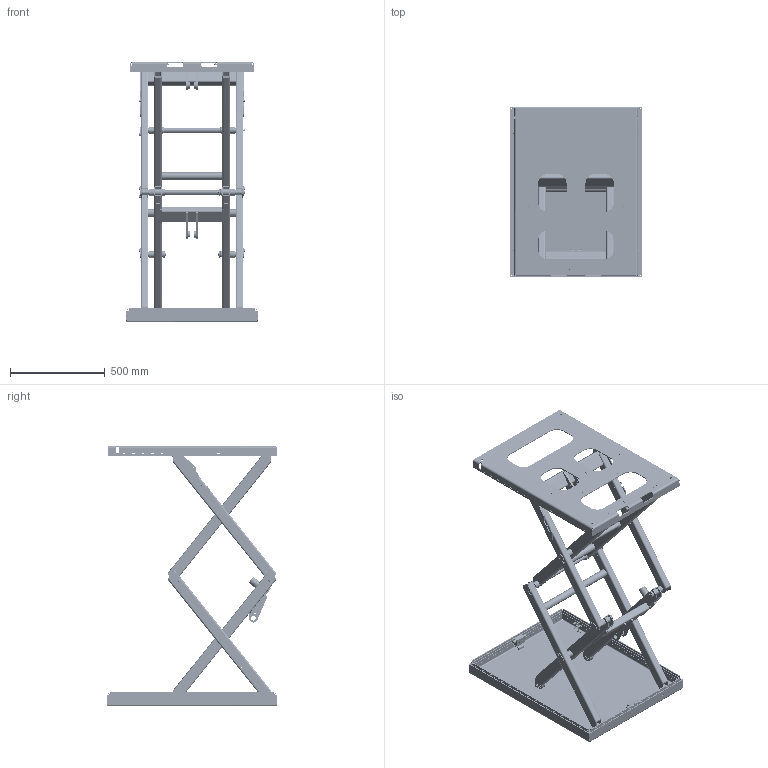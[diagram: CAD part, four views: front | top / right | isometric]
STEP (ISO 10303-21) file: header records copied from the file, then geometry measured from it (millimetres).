
FILE_DESCRIPTION(/* description */ ('Utbredning'),/* implementation_level */ '2;1');
FILE_NAME(/* name */ 'C:\Autodesk_VaultWork\Ritningar\Exporterade modeller\TRD 500 - (600330)\600330_Topp.stp',/* time_stamp */ '2015-07-03T12:23:46+02:00',/* author */ ('joaed'),/* organization */ (''),/* preprocessor_version */ 'ST-DEVELOPER v15.6',/* originating_system */ 'Autodesk Inventor 2015',/* authorisation */ '');
FILE_SCHEMA (('AUTOMOTIVE_DESIGN { 1 0 10303 214 3 1 1 }'));
Products named in the file (65): 600318; 45258; 44681; 600319; 600320; 44268; 86107-320; 600322; 600326; 45051-460; 600327; 600324; 600328; Copy of ISO 4019 - 80x40x4 - 320; 600323; 600348; 86107-45; 600325; 86107-460; 600329; 601711; 601706-545; 603456; 600336; ISO 4014 - M8 x 50BS EN; 42394; 600335; 43056-670; 43056-870; 42330; 43481; ISO 4032 - M8ISO; 33991; 44283; 44280; 44279; 44282; ISO 7089 - 5 - 140 HV(1); 84253; 44281-1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
Assembly tree (177 placements, depth 5):
  600330
    600319
      600318
      45258  x2
      44681  x2
    600322
      600320  x2
      44268  x4
      86107-320
    600328
      600326  x2
      45051-460
      600327  x2
      600324  x2
    600325
      600320  x2
      44268  x4
      Copy of ISO 4019 - 80x40x4 - 320
      600323  x2
      600324  x2
      600348  x2
      86107-45  x2
    600329
      600326  x2
      86107-460
    603456  x2
      601711
      601706-545
    600335
      600336
      45258  x2
      ISO 4014 - M8 x 50BS EN  x4
      42394  x2
    35731-900x700
      43056-670  x2
      43056-870  x2
      42330  x4
      43481  x4
      ISO 4032 - M8ISO  x4
      33990  x2
        33991
        44283
        44280
        44279
        44282
        ISO 7089 - 5 - 140 HV(1)
        84253
        44281
          44281-1
          ISO 2009 - M4 x 12ISO 7,9
        ISO 4032 - M4ISO
        83928
        44277
        44278
        33992
        ISO 7380 - M4 x 10
    601705H-125  x4
      601711
      601706-125
    85243  x6
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Bounding box: 700 x 900 x 1378 mm (x, y, z)
Volume: 14767960.8 mm3; surface area: 6835739.5 mm2
Topology: 191 solids, 191 shells, 6040 faces, 15884 edges, 10409 vertices
Faces by surface type: plane 3069, cylinder 2023, bspline 518, cone 342, torus 88
Full cylindrical faces by diameter (mm): 0.474 x2, 1 x4, 3 x4, 3.141 x4, 3.2 x4, 3.242 x4, 4 x14, 4.3 x4, 4.9 x2, 5 x4, 5.2 x6, 5.3 x4, 6.647 x4, 6.8 x9, 7.4 x34, 7.6 x4, 8 x27, 8.376 x8, 8.5 x4, 9 x6, 10 x14, 10.5 x4, 11 x28, 11.5 x6, 11.63 x18, 12 x4, 13 x7, 14.63 x8, 16 x26, 17 x2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
Entity records: 88613 total; most frequent: CARTESIAN_POINT 25054, ORIENTED_EDGE 13030, DIRECTION 12491, EDGE_CURVE 6514, VERTEX_POINT 4398, AXIS2_PLACEMENT_3D 4230, LINE 4031, VECTOR 4031
